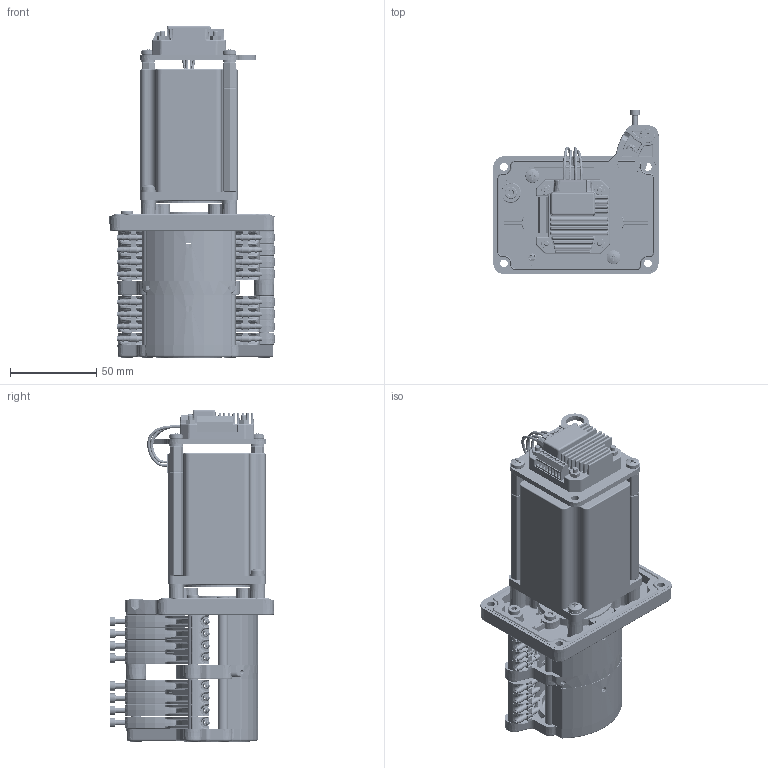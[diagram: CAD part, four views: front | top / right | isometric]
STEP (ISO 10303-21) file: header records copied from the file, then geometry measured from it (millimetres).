
FILE_DESCRIPTION (( 'STEP AP214' ), '1' );
FILE_NAME ('Assy_6K6002_A4_R00.STEP', '2026-09-24T11:59:53', ( '' ), ( '' ), 'SwSTEP 2.0', 'SolidWorks 2021', '' );
FILE_SCHEMA (( 'AUTOMOTIVE_DESIGN' ));
Length unit declared in the file: millimetre
Products named in the file (1): Assy_6K6002_A4_R00
Bounding box: 95.89 x 95.23 x 192.6 mm (x, y, z)
Volume: 1840.3 mm3; surface area: 151146.8 mm2
Topology: 17 solids, 18 shells, 5790 faces, 13978 edges, 8170 vertices
Faces by surface type: plane 1959, cylinder 1533, bspline 1042, cone 609, torus 398, sphere 249
Full cylindrical faces by diameter (mm): 1.5 x8, 1.6 x2, 1.65 x2, 1.8 x16, 2 x4, 2.2 x8, 2.4 x2, 2.5 x1, 2.7 x4, 3 x20, 3.2 x4, 4.5 x5, 5 x8, 5.5 x8, 5.6 x4, 6.05 x6, 6.1 x10, 6.5 x4, 7 x7, 7.5 x4, 7.96 x1, 8 x6, 8.55 x4, 10 x2, 10.5 x1, 24.168 x1, 38.1 x1
Entity records: 203259 total; most frequent: CARTESIAN_POINT 82960, ORIENTED_EDGE 26566, DIRECTION 22574, EDGE_CURVE 13283, AXIS2_PLACEMENT_3D 8553, VERTEX_POINT 8047, EDGE_LOOP 6396, FACE_OUTER_BOUND 5988
